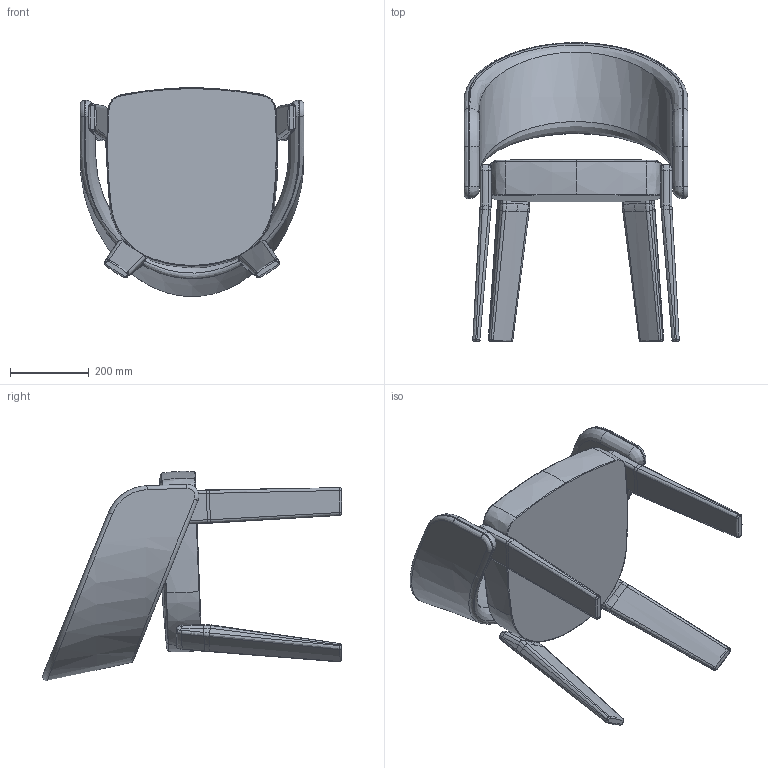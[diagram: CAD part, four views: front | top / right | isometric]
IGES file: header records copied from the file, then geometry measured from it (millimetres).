
Start section: SolidWorks IGES file using analytic representation for surfaces
Global section: file name: Y:\eforma\TECNICO\SOLIDWORKS\NEW LINE\1-SEDIE\FUR\08 modelli 3D web\FUR01_FUR_sedia.IGS; native system: SolidWorks 2022; preprocessor: SolidWorks 2022; author: eforma.tech; date: 250428.122311; units: millimetre
Bounding box: 570 x 761.76 x 533.19 mm (x, y, z)
Volume: 29919725.3 mm3; surface area: 1424439.6 mm2
Topology: 6 solids, 6 shells, 267 faces, 744 edges, 488 vertices
Faces by surface type: bspline 181, revolution 64, plane 22
